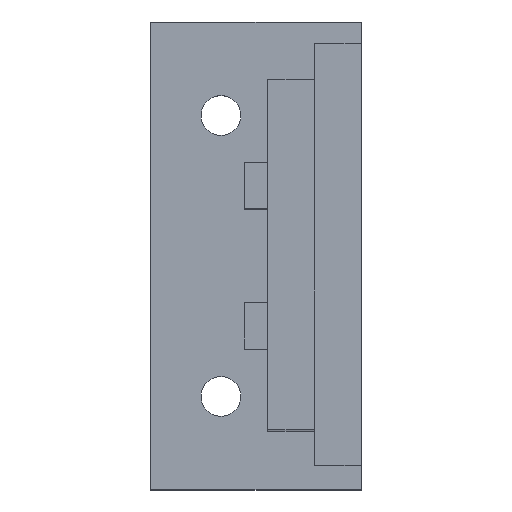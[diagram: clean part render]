
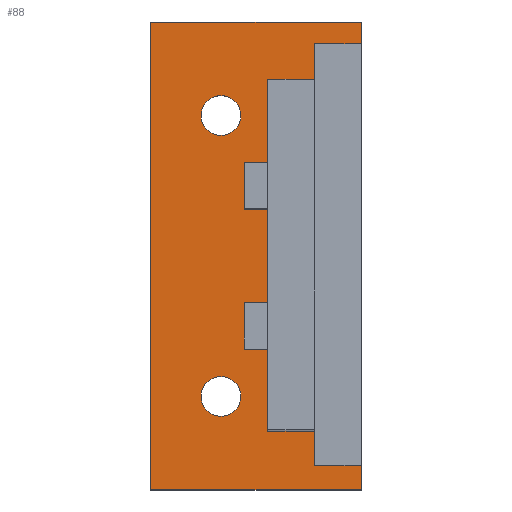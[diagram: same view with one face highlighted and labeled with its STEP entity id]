
A CAD part, top view. The second image highlights one B-rep face of the part: STEP entity #88.
In plain terms, the highlighted planar face has unit normal (0, 0, 1).
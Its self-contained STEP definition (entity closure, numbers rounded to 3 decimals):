
#24 = VERTEX_POINT('',#25);
#25 = CARTESIAN_POINT('',(0.,0.,4.));
#40 = VERTEX_POINT('',#41);
#41 = CARTESIAN_POINT('',(0.,40.,4.));
#47 = EDGE_CURVE('',#24,#40,#48,.T.);
#48 = LINE('',#49,#50);
#49 = CARTESIAN_POINT('',(0.,0.,4.));
#50 = VECTOR('',#51,1.);
#51 = DIRECTION('',(-0.,1.,0.));
#70 = EDGE_CURVE('',#24,#71,#73,.T.);
#71 = VERTEX_POINT('',#72);
#72 = CARTESIAN_POINT('',(18.,0.,4.));
#73 = LINE('',#74,#75);
#74 = CARTESIAN_POINT('',(0.,0.,4.));
#75 = VECTOR('',#76,1.);
#76 = DIRECTION('',(1.,0.,-0.));
#88 = ADVANCED_FACE('',(#89,#107,#118,#129),#227,.T.);
#89 = FACE_BOUND('',#90,.T.);
#90 = EDGE_LOOP('',(#91,#92,#93,#101));
#91 = ORIENTED_EDGE('',*,*,#47,.F.);
#92 = ORIENTED_EDGE('',*,*,#70,.T.);
#93 = ORIENTED_EDGE('',*,*,#94,.T.);
#94 = EDGE_CURVE('',#71,#95,#97,.T.);
#95 = VERTEX_POINT('',#96);
#96 = CARTESIAN_POINT('',(18.,40.,4.));
#97 = LINE('',#98,#99);
#98 = CARTESIAN_POINT('',(18.,0.,4.));
#99 = VECTOR('',#100,1.);
#100 = DIRECTION('',(-0.,1.,0.));
#101 = ORIENTED_EDGE('',*,*,#102,.F.);
#102 = EDGE_CURVE('',#40,#95,#103,.T.);
#103 = LINE('',#104,#105);
#104 = CARTESIAN_POINT('',(0.,40.,4.));
#105 = VECTOR('',#106,1.);
#106 = DIRECTION('',(1.,0.,-0.));
#107 = FACE_BOUND('',#108,.T.);
#108 = EDGE_LOOP('',(#109));
#109 = ORIENTED_EDGE('',*,*,#110,.F.);
#110 = EDGE_CURVE('',#111,#111,#113,.T.);
#111 = VERTEX_POINT('',#112);
#112 = CARTESIAN_POINT('',(7.7,8.,4.));
#113 = CIRCLE('',#114,1.7);
#114 = AXIS2_PLACEMENT_3D('',#115,#116,#117);
#115 = CARTESIAN_POINT('',(6.,8.,4.));
#116 = DIRECTION('',(0.,0.,1.));
#117 = DIRECTION('',(1.,0.,-0.));
#118 = FACE_BOUND('',#119,.T.);
#119 = EDGE_LOOP('',(#120));
#120 = ORIENTED_EDGE('',*,*,#121,.F.);
#121 = EDGE_CURVE('',#122,#122,#124,.T.);
#122 = VERTEX_POINT('',#123);
#123 = CARTESIAN_POINT('',(7.7,32.,4.));
#124 = CIRCLE('',#125,1.7);
#125 = AXIS2_PLACEMENT_3D('',#126,#127,#128);
#126 = CARTESIAN_POINT('',(6.,32.,4.));
#127 = DIRECTION('',(0.,0.,1.));
#128 = DIRECTION('',(1.,0.,-0.));
#129 = FACE_BOUND('',#130,.T.);
#130 = EDGE_LOOP('',(#131,#141,#149,#157,#165,#173,#181,#189,#197,#205,
    #213,#221));
#131 = ORIENTED_EDGE('',*,*,#132,.F.);
#132 = EDGE_CURVE('',#133,#135,#137,.T.);
#133 = VERTEX_POINT('',#134);
#134 = CARTESIAN_POINT('',(14.,5.,4.));
#135 = VERTEX_POINT('',#136);
#136 = CARTESIAN_POINT('',(14.,35.,4.));
#137 = LINE('',#138,#139);
#138 = CARTESIAN_POINT('',(14.,2.5,4.));
#139 = VECTOR('',#140,1.);
#140 = DIRECTION('',(-0.,1.,0.));
#141 = ORIENTED_EDGE('',*,*,#142,.T.);
#142 = EDGE_CURVE('',#133,#143,#145,.T.);
#143 = VERTEX_POINT('',#144);
#144 = CARTESIAN_POINT('',(10.,5.,4.));
#145 = LINE('',#146,#147);
#146 = CARTESIAN_POINT('',(5.,5.,4.));
#147 = VECTOR('',#148,1.);
#148 = DIRECTION('',(-1.,-0.,0.));
#149 = ORIENTED_EDGE('',*,*,#150,.T.);
#150 = EDGE_CURVE('',#143,#151,#153,.T.);
#151 = VERTEX_POINT('',#152);
#152 = CARTESIAN_POINT('',(10.,12.,4.));
#153 = LINE('',#154,#155);
#154 = CARTESIAN_POINT('',(10.,2.5,4.));
#155 = VECTOR('',#156,1.);
#156 = DIRECTION('',(-0.,1.,0.));
#157 = ORIENTED_EDGE('',*,*,#158,.T.);
#158 = EDGE_CURVE('',#151,#159,#161,.T.);
#159 = VERTEX_POINT('',#160);
#160 = CARTESIAN_POINT('',(8.,12.,4.));
#161 = LINE('',#162,#163);
#162 = CARTESIAN_POINT('',(4.,12.,4.));
#163 = VECTOR('',#164,1.);
#164 = DIRECTION('',(-1.,-0.,0.));
#165 = ORIENTED_EDGE('',*,*,#166,.T.);
#166 = EDGE_CURVE('',#159,#167,#169,.T.);
#167 = VERTEX_POINT('',#168);
#168 = CARTESIAN_POINT('',(8.,16.,4.));
#169 = LINE('',#170,#171);
#170 = CARTESIAN_POINT('',(8.,6.,4.));
#171 = VECTOR('',#172,1.);
#172 = DIRECTION('',(-0.,1.,0.));
#173 = ORIENTED_EDGE('',*,*,#174,.F.);
#174 = EDGE_CURVE('',#175,#167,#177,.T.);
#175 = VERTEX_POINT('',#176);
#176 = CARTESIAN_POINT('',(10.,16.,4.));
#177 = LINE('',#178,#179);
#178 = CARTESIAN_POINT('',(4.,16.,4.));
#179 = VECTOR('',#180,1.);
#180 = DIRECTION('',(-1.,-0.,0.));
#181 = ORIENTED_EDGE('',*,*,#182,.T.);
#182 = EDGE_CURVE('',#175,#183,#185,.T.);
#183 = VERTEX_POINT('',#184);
#184 = CARTESIAN_POINT('',(10.,24.,4.));
#185 = LINE('',#186,#187);
#186 = CARTESIAN_POINT('',(10.,2.5,4.));
#187 = VECTOR('',#188,1.);
#188 = DIRECTION('',(-0.,1.,0.));
#189 = ORIENTED_EDGE('',*,*,#190,.T.);
#190 = EDGE_CURVE('',#183,#191,#193,.T.);
#191 = VERTEX_POINT('',#192);
#192 = CARTESIAN_POINT('',(8.,24.,4.));
#193 = LINE('',#194,#195);
#194 = CARTESIAN_POINT('',(4.,24.,4.));
#195 = VECTOR('',#196,1.);
#196 = DIRECTION('',(-1.,-0.,0.));
#197 = ORIENTED_EDGE('',*,*,#198,.T.);
#198 = EDGE_CURVE('',#191,#199,#201,.T.);
#199 = VERTEX_POINT('',#200);
#200 = CARTESIAN_POINT('',(8.,28.,4.));
#201 = LINE('',#202,#203);
#202 = CARTESIAN_POINT('',(8.,12.,4.));
#203 = VECTOR('',#204,1.);
#204 = DIRECTION('',(-0.,1.,0.));
#205 = ORIENTED_EDGE('',*,*,#206,.F.);
#206 = EDGE_CURVE('',#207,#199,#209,.T.);
#207 = VERTEX_POINT('',#208);
#208 = CARTESIAN_POINT('',(10.,28.,4.));
#209 = LINE('',#210,#211);
#210 = CARTESIAN_POINT('',(4.,28.,4.));
#211 = VECTOR('',#212,1.);
#212 = DIRECTION('',(-1.,-0.,0.));
#213 = ORIENTED_EDGE('',*,*,#214,.T.);
#214 = EDGE_CURVE('',#207,#215,#217,.T.);
#215 = VERTEX_POINT('',#216);
#216 = CARTESIAN_POINT('',(10.,35.,4.));
#217 = LINE('',#218,#219);
#218 = CARTESIAN_POINT('',(10.,2.5,4.));
#219 = VECTOR('',#220,1.);
#220 = DIRECTION('',(-0.,1.,0.));
#221 = ORIENTED_EDGE('',*,*,#222,.F.);
#222 = EDGE_CURVE('',#135,#215,#223,.T.);
#223 = LINE('',#224,#225);
#224 = CARTESIAN_POINT('',(5.,35.,4.));
#225 = VECTOR('',#226,1.);
#226 = DIRECTION('',(-1.,-0.,0.));
#227 = PLANE('',#228);
#228 = AXIS2_PLACEMENT_3D('',#229,#230,#231);
#229 = CARTESIAN_POINT('',(0.,0.,4.));
#230 = DIRECTION('',(0.,0.,1.));
#231 = DIRECTION('',(1.,0.,-0.));
